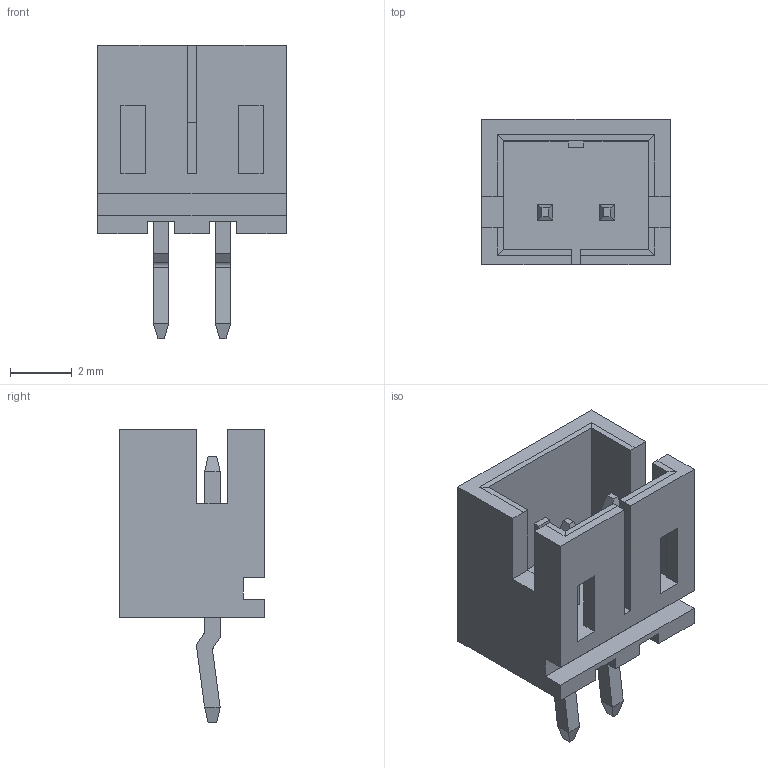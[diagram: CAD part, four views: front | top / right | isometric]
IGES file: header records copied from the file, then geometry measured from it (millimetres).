
Start section: SolidWorks IGES file using analytic representation for surfaces
Global section: file name: C:\Users\knoprd64\Desktop\4172-02TSB\4172-02TSB.IGS; native system: SolidWorks 2011; preprocessor: SolidWorks 2011; author: knoprd64; date: 131213.101210; units: millimetre
Bounding box: 6.1 x 4.7 x 9.5 mm (x, y, z)
Surface area: 308.1 mm2 (no closed solid volume)
Topology: 0 solids, 0 shells, 111 faces, 602 edges, 602 vertices
Faces by surface type: bspline 105, revolution 6
